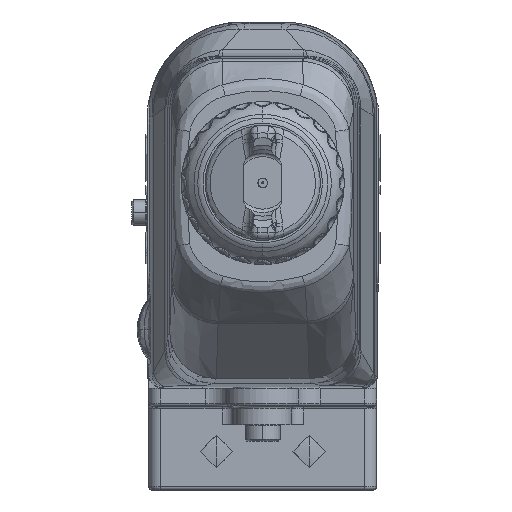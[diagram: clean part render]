
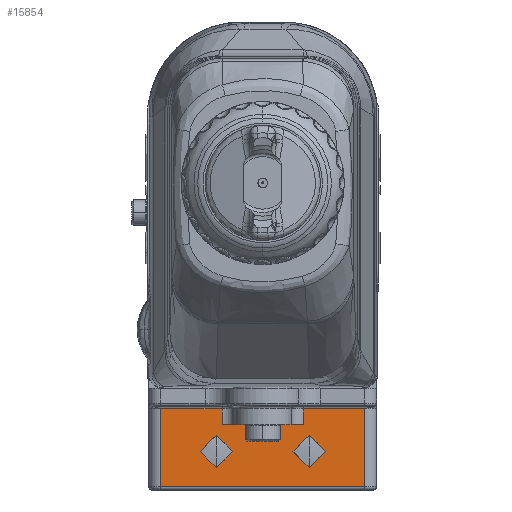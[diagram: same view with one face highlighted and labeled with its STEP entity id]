
A CAD part, top view. The second image highlights one B-rep face of the part: STEP entity #15854.
In plain terms, the highlighted planar face has unit normal (0, 0, 1).
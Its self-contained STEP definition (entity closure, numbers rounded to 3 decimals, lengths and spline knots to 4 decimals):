
#12405=DIRECTION('',(-1.,0.,0.));
#12406=VECTOR('',#12405,0.8729);
#12407=CARTESIAN_POINT('',(0.4364,-3.3,1.99));
#12408=LINE('',#12407,#12406);
#13562=DIRECTION('',(-1.,0.,0.));
#13563=VECTOR('',#13562,2.2);
#13564=CARTESIAN_POINT('',(1.1,-3.97,1.99));
#13565=LINE('',#13564,#13563);
#13566=DIRECTION('',(0.,1.,0.));
#13567=VECTOR('',#13566,0.84);
#13568=CARTESIAN_POINT('',(-1.1,-3.97,1.99));
#13569=LINE('',#13568,#13567);
#13570=DIRECTION('',(1.,0.,0.));
#13571=VECTOR('',#13570,0.6636);
#13572=CARTESIAN_POINT('',(-1.1,-3.13,1.99));
#13573=LINE('',#13572,#13571);
#13574=DIRECTION('',(0.,1.,0.));
#13575=VECTOR('',#13574,0.17);
#13576=CARTESIAN_POINT('',(-0.4364,-3.3,1.99));
#13577=LINE('',#13576,#13575);
#13578=DIRECTION('',(0.,1.,0.));
#13579=VECTOR('',#13578,0.17);
#13580=CARTESIAN_POINT('',(0.4364,-3.3,1.99));
#13581=LINE('',#13580,#13579);
#13582=DIRECTION('',(1.,0.,0.));
#13583=VECTOR('',#13582,0.6636);
#13584=CARTESIAN_POINT('',(0.4364,-3.13,1.99));
#13585=LINE('',#13584,#13583);
#13586=DIRECTION('',(0.,1.,0.));
#13587=VECTOR('',#13586,0.84);
#13588=CARTESIAN_POINT('',(1.1,-3.97,1.99));
#13589=LINE('',#13588,#13587);
#14508=CARTESIAN_POINT('',(-0.4364,-3.3,1.99));
#14509=VERTEX_POINT('',#14508);
#14510=CARTESIAN_POINT('',(0.4364,-3.3,1.99));
#14511=VERTEX_POINT('',#14510);
#14516=CARTESIAN_POINT('',(-1.1,-3.97,1.99));
#14518=VERTEX_POINT('',#14516);
#14522=CARTESIAN_POINT('',(1.1,-3.97,1.99));
#14523=VERTEX_POINT('',#14522);
#14568=CARTESIAN_POINT('',(-1.1,-3.13,1.99));
#14569=CARTESIAN_POINT('',(-0.4364,-3.13,1.99));
#14570=VERTEX_POINT('',#14568);
#14571=VERTEX_POINT('',#14569);
#14590=CARTESIAN_POINT('',(0.4364,-3.13,1.99));
#14591=VERTEX_POINT('',#14590);
#14594=CARTESIAN_POINT('',(1.1,-3.13,1.99));
#14595=VERTEX_POINT('',#14594);
#15832=CARTESIAN_POINT('',(-0.7771,-4.,1.99));
#15833=DIRECTION('',(0.,0.,-1.));
#15834=DIRECTION('',(1.,0.,0.));
#15835=AXIS2_PLACEMENT_3D('',#15832,#15833,#15834);
#15836=PLANE('',#15835);
#15838=ORIENTED_EDGE('',*,*,#15837,.T.);
#15840=ORIENTED_EDGE('',*,*,#15839,.T.);
#15842=ORIENTED_EDGE('',*,*,#15841,.T.);
#15844=ORIENTED_EDGE('',*,*,#15843,.F.);
#15845=ORIENTED_EDGE('',*,*,#15099,.F.);
#15847=ORIENTED_EDGE('',*,*,#15846,.T.);
#15849=ORIENTED_EDGE('',*,*,#15848,.T.);
#15851=ORIENTED_EDGE('',*,*,#15850,.F.);
#15852=EDGE_LOOP('',(#15838,#15840,#15842,#15844,#15845,#15847,#15849,#15851));
#15853=FACE_OUTER_BOUND('',#15852,.F.);
#15854=ADVANCED_FACE('',(#15853),#15836,.F.);
#15099=EDGE_CURVE('',#14511,#14509,#12408,.T.);
#15837=EDGE_CURVE('',#14523,#14518,#13565,.T.);
#15839=EDGE_CURVE('',#14518,#14570,#13569,.T.);
#15841=EDGE_CURVE('',#14570,#14571,#13573,.T.);
#15843=EDGE_CURVE('',#14509,#14571,#13577,.T.);
#15846=EDGE_CURVE('',#14511,#14591,#13581,.T.);
#15848=EDGE_CURVE('',#14591,#14595,#13585,.T.);
#15850=EDGE_CURVE('',#14523,#14595,#13589,.T.);
